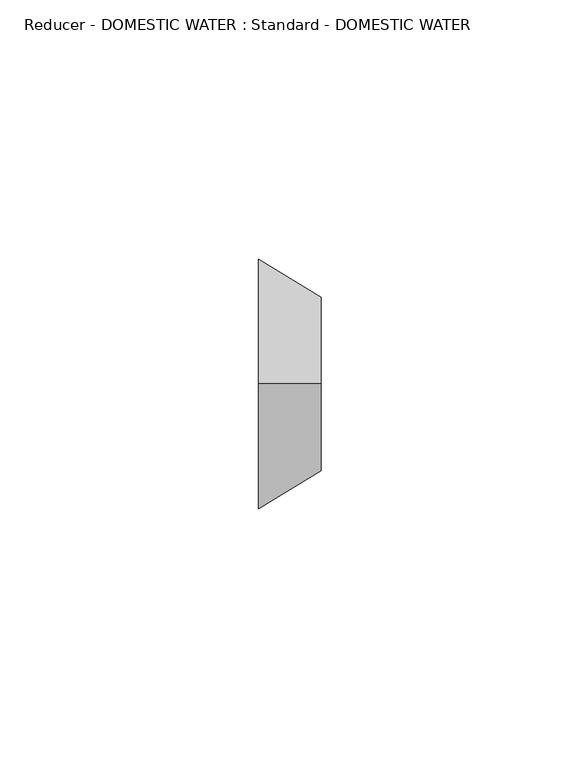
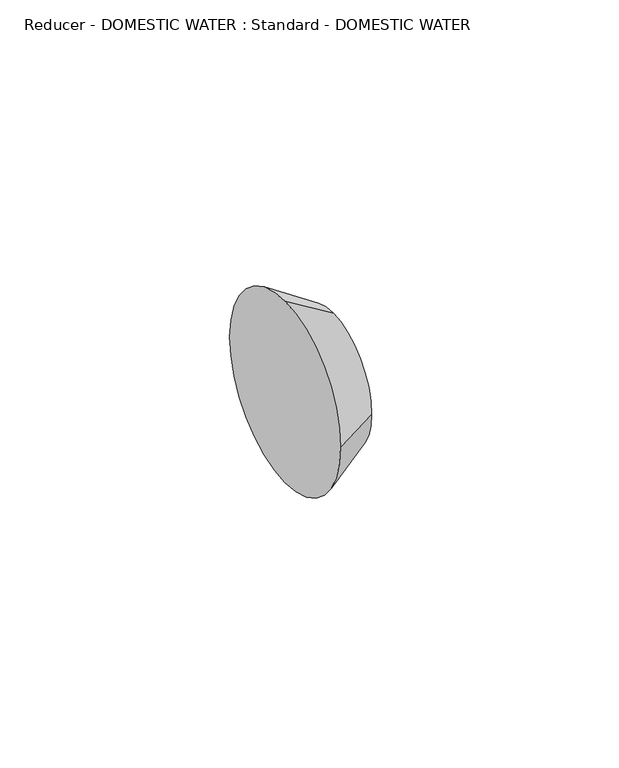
"""IFC4 building model written with IfcOpenShell, lengths in millimetres: pipe fitting geometry, Reducer - DOMESTIC WATER : Standard - DOMESTIC WATER."""

from ifc_helpers import new_model, si_unit, frame, origin, place, context, project, spatial, polyline, circle_curve, source, transform, mapped, element, save
from ifc_brep_helpers import plane_surface, revolved_surface, advanced_brep


def reducer_domestic_water_standard_domestic_water_31b9b4a5(model_context):
    return source(origin(), model_context, "Body", "AdvancedBrep", [
        advanced_brep(
        [(12.065, 0.0, 16.7005), (12.065, -16.7005, 0.0), (12.065, 0.0, -16.7005), (12.065, 16.7005, 0.0), (0.0, 0.0, 24.13), (0.0, 24.13, 0.0), (0.0, 0.0, -24.13), (0.0, -24.13, 0.0)],
        [
            (0, 1, circle_curve(frame((12.065, 0.0, 0.0), z_axis=(1.0, 0.0, 0.0), x_axis=(0.0, 0.0, 1.0)), 16.7005)),
            (1, 2, circle_curve(frame((12.065, 0.0, 0.0), z_axis=(1.0, 0.0, 0.0), x_axis=(0.0, -1.0, 0.0)), 16.7005)),
            (2, 3, circle_curve(frame((12.065, 0.0, 0.0), z_axis=(1.0, 0.0, 0.0), x_axis=(0.0, 0.0, -1.0)), 16.7005)),
            (3, 0, circle_curve(frame((12.065, 0.0, 0.0), z_axis=(1.0, 0.0, 0.0), x_axis=(0.0, 1.0, 0.0)), 16.7005)),
            (4, 5, circle_curve(frame((0.0, 0.0, 0.0), z_axis=(-1.0, 0.0, 0.0), x_axis=(0.0, 1.0, 0.0)), 24.13)),
            (5, 6, circle_curve(frame((0.0, 0.0, 0.0), z_axis=(-1.0, 0.0, 0.0), x_axis=(0.0, 0.0, -1.0)), 24.13)),
            (6, 7, circle_curve(frame((0.0, 0.0, 0.0), z_axis=(-1.0, 0.0, 0.0), x_axis=(0.0, -1.0, 0.0)), 24.13)),
            (7, 4, circle_curve(frame((0.0, 0.0, 0.0), z_axis=(-1.0, 0.0, 0.0), x_axis=(0.0, 0.0, 1.0)), 24.13)),
            (7, 1),
            (0, 4),
            (6, 2),
            (5, 3),
        ],
        [
            plane_surface(frame((12.065, 0.0, 0.0), z_axis=(1.0, 0.0, 0.0), x_axis=(0.0, -1.0, 0.0))),
            plane_surface(frame((0.0, 0.0, 0.0), z_axis=(-1.0, 0.0, 0.0), x_axis=(0.0, -1.0, 0.0))),
            revolved_surface(polyline([(12.064999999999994, 0.0, 16.70050000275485), (0.0, 0.0, 24.13)]), (39.1854701, 0.0, 0.0), (-1.0, 0.0, 0.0)),
            revolved_surface(polyline([(12.064999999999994, -16.70050000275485, 0.0), (0.0, -24.13, 0.0)]), (39.1854701, 0.0, 0.0), (-1.0, 0.0, 0.0)),
            revolved_surface(polyline([(12.064999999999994, 0.0, -16.70050000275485), (0.0, 0.0, -24.13)]), (39.1854701, 0.0, 0.0), (-1.0, 0.0, 0.0)),
            revolved_surface(polyline([(12.064999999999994, 16.70050000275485, 0.0), (0.0, 24.13, 0.0)]), (39.1854701, 0.0, 0.0), (-1.0, 0.0, 0.0)),
        ],
        [
            (0, [[1, 2, 3, 4]]),
            (1, [[5, 6, 7, 8]]),
            (2, [[-8, 9, -1, 10]]),
            (3, [[-7, 11, -2, -9]]),
            (4, [[-6, 12, -3, -11]]),
            (5, [[-5, -10, -4, -12]]),
        ],
    ),
        advanced_brep(
        [(12.065, 0.0, 16.7005), (12.065, -16.7005, 0.0), (12.065, 0.0, -16.7005), (12.065, 16.7005, 0.0), (0.0, 0.0, 24.13), (0.0, 24.13, 0.0), (0.0, 0.0, -24.13), (0.0, -24.13, 0.0)],
        [
            (0, 1, circle_curve(frame((12.065, 0.0, 0.0), z_axis=(1.0, 0.0, 0.0), x_axis=(0.0, 0.0, 1.0)), 16.7005)),
            (1, 2, circle_curve(frame((12.065, 0.0, 0.0), z_axis=(1.0, 0.0, 0.0), x_axis=(0.0, -1.0, 0.0)), 16.7005)),
            (2, 3, circle_curve(frame((12.065, 0.0, 0.0), z_axis=(1.0, 0.0, -1.039076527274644e-12), x_axis=(-1.03897985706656e-12, 0.0, -1.0)), 16.7005)),
            (3, 0, circle_curve(frame((12.065, 0.0, 0.0), z_axis=(1.0, 0.0, 0.0), x_axis=(0.0, 1.0, 0.0)), 16.7005)),
            (4, 5, circle_curve(frame((0.0, 0.0, 0.0), z_axis=(-1.0, 0.0, 0.0), x_axis=(0.0, 1.0, 0.0)), 24.13)),
            (5, 6, circle_curve(frame((0.0, 0.0, 0.0), z_axis=(-1.0, 0.0, 1.039076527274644e-12), x_axis=(-1.03897985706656e-12, 0.0, -1.0)), 24.13)),
            (6, 7, circle_curve(frame((0.0, 0.0, 0.0), z_axis=(-1.0, 0.0, 0.0), x_axis=(0.0, -1.0, 0.0)), 24.13)),
            (7, 4, circle_curve(frame((0.0, 0.0, 0.0), z_axis=(-1.0, 0.0, 0.0), x_axis=(0.0, 0.0, 1.0)), 24.13)),
            (7, 1),
            (0, 4),
            (6, 2),
            (5, 3),
        ],
        [
            plane_surface(frame((12.065, 0.0, 0.0), z_axis=(1.0, 0.0, 0.0), x_axis=(0.0, -1.0, 0.0))),
            plane_surface(frame((0.0, 0.0, 0.0), z_axis=(-1.0, 0.0, 0.0), x_axis=(0.0, -1.0, 0.0))),
            revolved_surface(polyline([(12.064999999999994, 0.0, 16.70050000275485), (0.0, 0.0, 24.13)]), (39.1854701, 0.0, 0.0), (-1.0, 0.0, 0.0)),
            revolved_surface(polyline([(12.064999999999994, -16.70050000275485, 0.0), (0.0, -24.13, 0.0)]), (39.1854701, 0.0, 0.0), (-1.0, 0.0, 0.0)),
            revolved_surface(polyline([(12.064999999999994, 0.0, -16.70050000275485), (-2.5075053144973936e-11, 0.0, -24.13000000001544)]), (39.1854701, 0.0, 0.0), (-1.0, 0.0, 1.039076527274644e-12)),
            revolved_surface(polyline([(12.064999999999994, 16.70050000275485, 0.0), (0.0, 24.13, 0.0)]), (39.1854701, 0.0, 0.0), (-1.0, 0.0, 0.0)),
        ],
        [
            (0, [[1, 2, 3, 4]]),
            (1, [[5, 6, 7, 8]]),
            (2, [[-8, 9, -1, 10]]),
            (3, [[-7, 11, -2, -9]]),
            (4, [[-6, 12, -3, -11]]),
            (5, [[-5, -10, -4, -12]]),
        ],
    ),
    ])


if __name__ == "__main__":
    model = new_model("IFC4")
    model_context = context("Model", 3, world=origin())
    ifc_project = project(units=[si_unit("LENGTHUNIT", "METRE", prefix="MILLI")], contexts=[model_context])
    site = spatial("IfcSite", under=ifc_project)
    building = spatial("IfcBuilding", under=site)
    placement = place(None, origin())
    reducer_domestic_water_standard_domestic_water_shape = reducer_domestic_water_standard_domestic_water_31b9b4a5(model_context)
    element("IfcPipeFitting", 1, ObjectType="Reducer - DOMESTIC WATER : Standard - DOMESTIC WATER", at=placement, inside=building, context=model_context, shape_type="MappedRepresentation", body=[
        mapped(reducer_domestic_water_standard_domestic_water_shape, transform((0.0, 0.0, 0.0), x_axis=(1.0, 0.0, 0.0), y_axis=(0.0, 1.0, 0.0), z_axis=(0.0, 0.0, 1.0))),
    ])
    save(model, "model.ifc")
